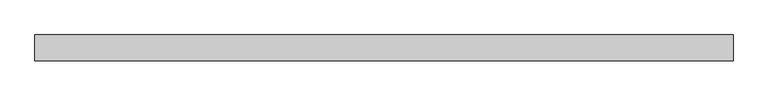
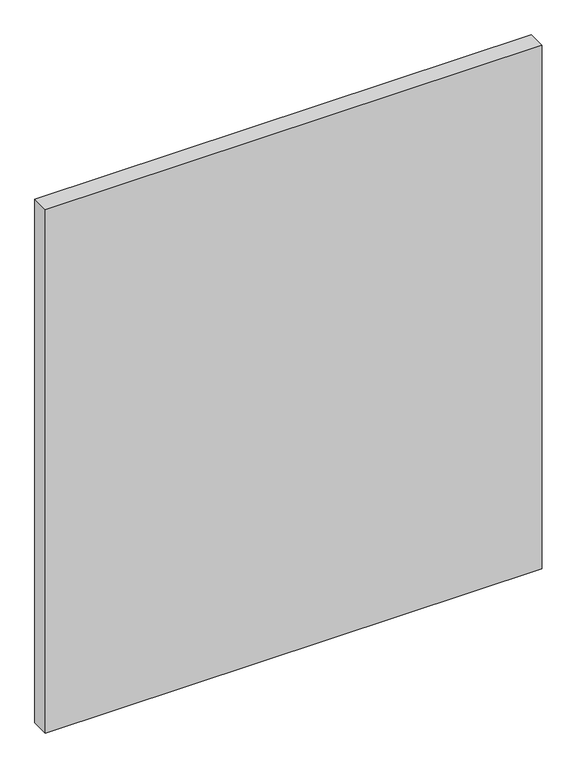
"""IFC4 building model written with IfcOpenShell, lengths in millimetres: plate geometry, Panneau système : Vitré."""

import ifcopenshell
import ifcopenshell.guid

model = None  # the IFC model being written
_history = None  # IfcOwnerHistory: only IFC2X3 demands one
_inside = {}  # id of a spatial element -> (the spatial element, [elements in it])
_under = {}  # id of a project, library or spatial element -> (it, [spatial elements below it])
_declared = {}  # id of a project -> (the project, [libraries it declares])
_typed = {}  # id of a type object -> (the type object, [elements of that type])
_made_of = {}  # id of a material, layer set ... -> (it, [elements and type objects made of it])


def new_model(schema):
    """Start an empty IFC model of exactly this schema.

    Asked for "IFC4X3", IfcOpenShell would pick the latest addendum, in which some entities
    have other attributes; the version numbers below select the first issue.
    IFC2X3 requires an IfcOwnerHistory on every rooted entity: one is made here for all.
    """
    global model, _history
    if schema == "IFC4X3":
        model = ifcopenshell.file(schema_version=(4, 3, 0, 0))
    else:
        model = ifcopenshell.file(schema=schema)
    _inside.clear()
    _under.clear()
    _declared.clear()
    _typed.clear()
    _made_of.clear()
    _history = None
    if model.schema == "IFC2X3":
        org = make("IfcOrganization", Name="unknown")
        user = make(
            "IfcPersonAndOrganization",
            ThePerson=make("IfcPerson", FamilyName="unknown"),
            TheOrganization=org,
        )
        app = make(
            "IfcApplication",
            ApplicationDeveloper=org,
            Version="unknown",
            ApplicationFullName="unknown",
            ApplicationIdentifier="unknown",
        )
        _history = make(
            "IfcOwnerHistory",
            OwningUser=user,
            OwningApplication=app,
            ChangeAction="ADDED",
            CreationDate=0,
        )
    return model


def make(cls, **values):
    """One entity of the class cls with the attributes given. An attribute that is None is left unset."""
    return model.create_entity(
        cls, **{name: value for name, value in values.items() if value is not None}
    )


def rooted(cls, **values):
    """An entity with a GlobalId (a new one), such as an element, a storey or a relation."""
    return make(cls, GlobalId=ifcopenshell.guid.new(), OwnerHistory=_history, **values)


def si_unit(unit_type, name, prefix=None):
    """IfcSIUnit, for example si_unit("LENGTHUNIT", "METRE", prefix="MILLI")."""
    return make("IfcSIUnit", UnitType=unit_type, Prefix=prefix, Name=name)


def assignment(units):
    """IfcUnitAssignment: the units of a project."""
    return None if units is None else make("IfcUnitAssignment", Units=units)


def point(xyz):
    """IfcCartesianPoint."""
    return None if xyz is None else make("IfcCartesianPoint", Coordinates=xyz)


def direction(xyz):
    """IfcDirection."""
    return None if xyz is None else make("IfcDirection", DirectionRatios=xyz)


def frame(location, z_axis=None, x_axis=None):
    """IfcAxis2Placement3D, a coordinate frame: its origin and axes. An axis left out is left unset."""
    return make(
        "IfcAxis2Placement3D",
        Location=point(location),
        Axis=direction(z_axis),
        RefDirection=direction(x_axis),
    )


def origin():
    """The frame at (0, 0, 0) with its axes left unset."""
    return frame((0.0, 0.0, 0.0))


def origin_with_axes():
    """The frame at (0, 0, 0) with the z axis (0, 0, 1) and the x axis (1, 0, 0) written out."""
    return frame((0.0, 0.0, 0.0), z_axis=(0.0, 0.0, 1.0), x_axis=(1.0, 0.0, 0.0))


def place(relative_to, where):
    """IfcLocalPlacement: puts the frame where relative to a parent placement (None: the world)."""
    return make(
        "IfcLocalPlacement", PlacementRelTo=relative_to, RelativePlacement=where
    )


def context(
    kind, dimensions, precision=None, world=None, true_north=None, identifier=None
):
    """IfcGeometricRepresentationContext, for example the 3D "Model" context."""
    return make(
        "IfcGeometricRepresentationContext",
        ContextIdentifier=identifier,
        ContextType=kind,
        CoordinateSpaceDimension=dimensions,
        Precision=precision,
        WorldCoordinateSystem=world,
        TrueNorth=true_north,
    )


def project(units=None, contexts=None):
    """IfcProject with its units and contexts."""
    return rooted(
        "IfcProject",
        Name="project",
        RepresentationContexts=contexts,
        UnitsInContext=assignment(units),
    )


def spatial(cls, under=None, at=None, **own):
    """A site, building, storey or space (cls), placed at a placement, below another one or the project."""
    s = rooted(cls, ObjectPlacement=at, **own)
    if under is not None:
        _under.setdefault(under.id(), (under, []))[1].append(s)
    return s


def polyline(points):
    """IfcPolyline through the points."""
    return make("IfcPolyline", Points=[point(p) for p in points])


def outline(outer, holes=None, kind="AREA"):
    """IfcArbitraryClosedProfileDef: a profile drawn as a closed curve; with holes, ...WithVoids."""
    if holes is None:
        return make("IfcArbitraryClosedProfileDef", ProfileType=kind, OuterCurve=outer)
    return make(
        "IfcArbitraryProfileDefWithVoids",
        ProfileType=kind,
        OuterCurve=outer,
        InnerCurves=holes,
    )


def extrude(swept, where, along, depth):
    """IfcExtrudedAreaSolid: the profile swept, set in the frame where, extruded along a direction by depth."""
    return make(
        "IfcExtrudedAreaSolid",
        SweptArea=swept,
        Position=where,
        ExtrudedDirection=direction(along),
        Depth=depth,
    )


def shape(context_of_items, identifier, shape_type, items):
    """IfcShapeRepresentation: the items that make up one representation, for example the "Body"."""
    return make(
        "IfcShapeRepresentation",
        ContextOfItems=context_of_items,
        RepresentationIdentifier=identifier,
        RepresentationType=shape_type,
        Items=items,
    )


def source(mapping_origin, context_of_items, identifier, shape_type, items):
    """IfcRepresentationMap: a shape defined once, which mapped items show again and again."""
    return make(
        "IfcRepresentationMap",
        MappingOrigin=mapping_origin,
        MappedRepresentation=shape(context_of_items, identifier, shape_type, items),
    )


def transform(
    local_origin,
    x_axis=None,
    y_axis=None,
    z_axis=None,
    scale=None,
    scale2=None,
    scale3=None,
    uniform=True,
):
    """IfcCartesianTransformationOperator3D, or its non-uniform kind. x_axis, y_axis, z_axis: its Axis1, 2, 3."""
    if uniform:
        return make(
            "IfcCartesianTransformationOperator3D",
            Axis1=direction(x_axis),
            Axis2=direction(y_axis),
            LocalOrigin=point(local_origin),
            Scale=scale,
            Axis3=direction(z_axis),
        )
    return make(
        "IfcCartesianTransformationOperator3DnonUniform",
        Axis1=direction(x_axis),
        Axis2=direction(y_axis),
        LocalOrigin=point(local_origin),
        Scale=scale,
        Axis3=direction(z_axis),
        Scale2=scale2,
        Scale3=scale3,
    )


def mapped(mapping_source, mapping_target):
    """IfcMappedItem: shows the shape of a source again, moved by a transform."""
    return make(
        "IfcMappedItem", MappingSource=mapping_source, MappingTarget=mapping_target
    )


def made_of(thing, what):
    """Note that an element or type object is made of a material, layer set ...; save() writes the relation."""
    if what is not None:
        _made_of.setdefault(what.id(), (what, []))[1].append(thing)
    return thing


def element(
    cls,
    number,
    at=None,
    inside=None,
    cuts=None,
    type_object=None,
    material=None,
    context=None,
    identifier="Body",
    shape_type=None,
    held_by="IfcProductDefinitionShape",
    body=None,
    shapes=None,
    **own,
):
    """One element of the class cls, such as IfcWall. Its Tag is "e" and its number.

    at: its placement. inside: the storey or other place that contains it. cuts: it is an
    opening in that element (IfcRelVoidsElement). A single representation is given by context,
    identifier, shape_type and body (its items); several are given by shapes. held_by: the class
    of the entity that holds the representations. save() writes the other relations.
    """
    e = rooted(cls, Tag="e%d" % number, ObjectPlacement=at, **own)
    if body is not None:
        shapes = [shape(context, identifier, shape_type, body)]
    if shapes is not None:
        e.Representation = make(held_by, Representations=shapes)
    if inside is not None:
        _inside.setdefault(inside.id(), (inside, []))[1].append(e)
    if cuts is not None:
        rooted(
            "IfcRelVoidsElement", RelatingBuildingElement=cuts, RelatedOpeningElement=e
        )
    if type_object is not None:
        _typed.setdefault(type_object.id(), (type_object, []))[1].append(e)
    return made_of(e, material)


def aggregate(whole, parts):
    """IfcRelAggregates: a whole, such as a stair, and the parts it consists of."""
    return rooted("IfcRelAggregates", RelatingObject=whole, RelatedObjects=parts)


def save(model, path):
    """Write the relations noted so far, then the file.

    IfcRelAggregates (storeys below a building ...), IfcRelContainedInSpatialStructure (elements
    in a storey), IfcRelDefinesByType, IfcRelAssociatesMaterial and IfcRelDeclares: one each for
    every whole, place, type object, material and project.
    """
    for whole, parts in _under.values():
        aggregate(whole, parts)
    for where, things in _inside.values():
        rooted(
            "IfcRelContainedInSpatialStructure",
            RelatedElements=things,
            RelatingStructure=where,
        )
    for kind, things in _typed.values():
        rooted("IfcRelDefinesByType", RelatedObjects=things, RelatingType=kind)
    for what, things in _made_of.values():
        rooted("IfcRelAssociatesMaterial", RelatedObjects=things, RelatingMaterial=what)
    for by, libraries in _declared.values():
        rooted("IfcRelDeclares", RelatingContext=by, RelatedDefinitions=libraries)
    model.write(path)


def plate_1de134aa(model_context):
    return source(origin(), model_context, "Body", "SweptSolid", [
        extrude(outline(polyline([(545.4286113, -20.0), (-545.4286113, -20.0), (-545.4286113, 20.0), (545.4286113, 20.0), (545.4286113, -20.0)])), origin_with_axes(), (0.0, 0.0, 1.0), 1215.0),
    ])


if __name__ == "__main__":
    model = new_model("IFC4")
    model_context = context("Model", 3, world=origin())
    ifc_project = project(units=[si_unit("LENGTHUNIT", "METRE", prefix="MILLI")], contexts=[model_context])
    site = spatial("IfcSite", under=ifc_project)
    building = spatial("IfcBuilding", under=site)
    placement = place(None, origin())
    plate_shape = plate_1de134aa(model_context)
    element("IfcPlate", 1, ObjectType="Panneau système : Vitré", at=placement, inside=building, context=model_context, shape_type="MappedRepresentation", body=[
        mapped(plate_shape, transform((0.0, 0.0, 0.0), x_axis=(1.0, 0.0, 0.0), y_axis=(0.0, 1.0, 0.0), z_axis=(0.0, 0.0, 1.0))),
    ])
    save(model, "model.ifc")
